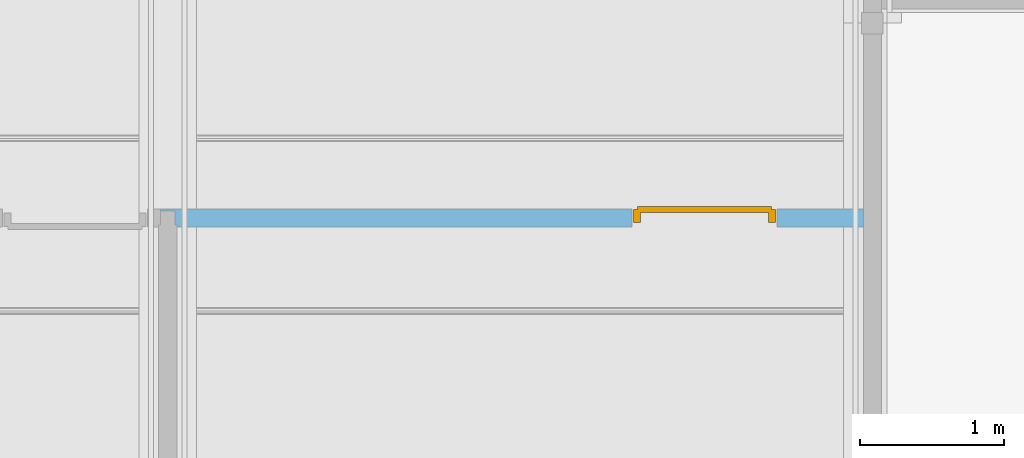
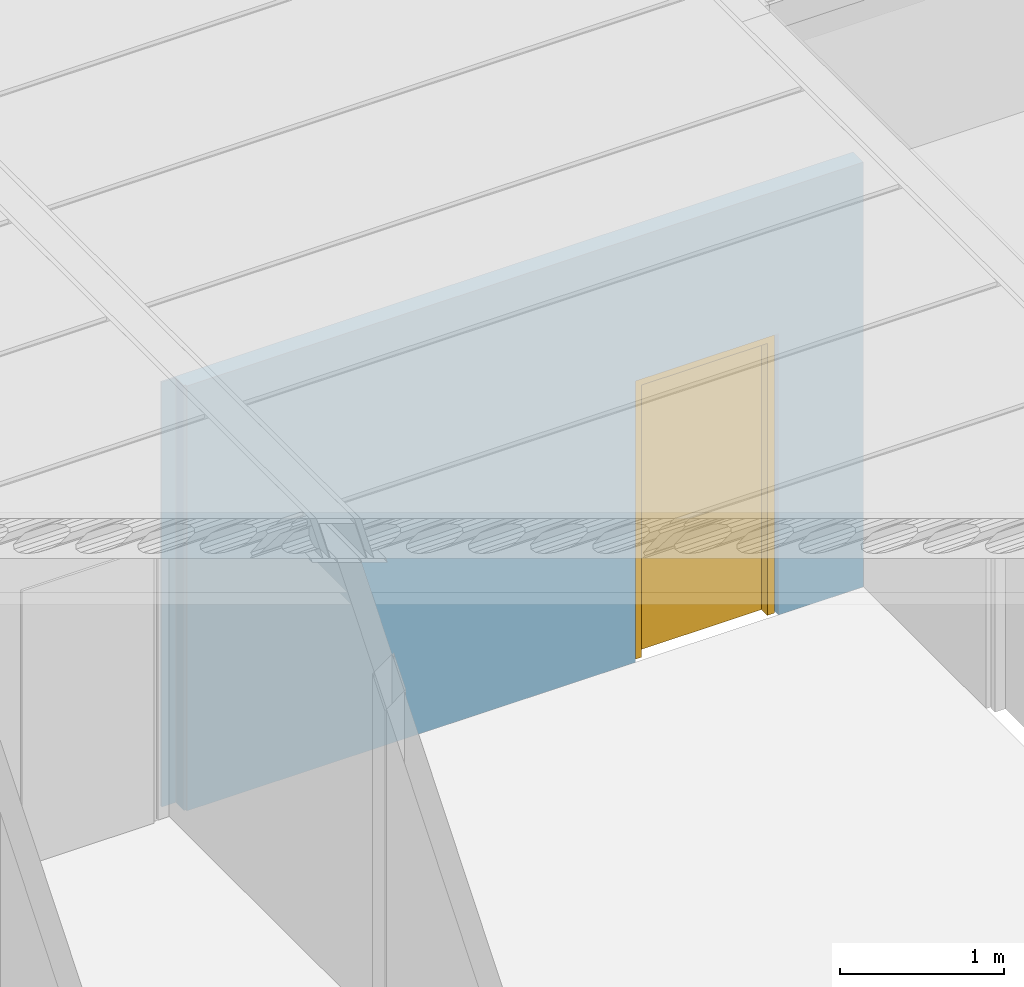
# One storey, part 29 of 45: 1 door, 1 opening, plus 1 element that does not belong to this part.
"""IFC2X3 building model written with IfcOpenShell, lengths in millimetres."""

from ifc_helpers import new_model, entity, si_unit, converted_unit, frame, frame_2d, origin, origin_with_axes, place, context, subcontext, project, spatial, polyline, rectangle, outline, extrude, faceted_brep, material, layer, layer_set, layer_usage, type_object, element, fill, save


model = new_model("IFC2X3")

# Units and contexts
model_context = context("Model", 3, precision=1e-05, world=origin())
plan_context = context("Plan", 3, precision=1e-05, world=origin())
body_context = subcontext(model_context, "Body", "Model", "MODEL_VIEW")
ifc_project = project(units=[si_unit("LENGTHUNIT", "METRE", prefix="MILLI"), converted_unit("PLANEANGLEUNIT", "DEGREE", entity("IfcPlaneAngleMeasure", 0.0174532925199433), si_unit("PLANEANGLEUNIT", "RADIAN"), dimensions=[0, 0, 0, 0, 0, 0, 0]), si_unit("AREAUNIT", "SQUARE_METRE"), si_unit("VOLUMEUNIT", "CUBIC_METRE")], contexts=[model_context, plan_context])

# Building, storey
building_placement = place(None, origin())
building = spatial("IfcBuilding", under=ifc_project, at=building_placement, Name="HEKF Administrasjonbygg", CompositionType="ELEMENT")
storey_placement = place(building_placement, frame((0.0, 0.0, 6500.0), z_axis=(0.0, 0.0, 1.0), x_axis=(1.0, 0.0, 0.0)))
storey = spatial("IfcBuildingStorey", under=building, at=storey_placement, Name="Plan 1", CompositionType="ELEMENT", Elevation=6500.0)

# Wall, opening, door
ifc_material_1 = material(Name="gips")
ifc_layer_1 = layer(ifc_material_1, 13.0)
ifc_material_2 = material(Name="riegel stål 100")
ifc_layer_2 = layer(ifc_material_2, 100.0)
ifc_material_3 = material(Name="gips")
ifc_layer_3 = layer(ifc_material_3, 13.0)
ifc_layer_set = layer_set([ifc_layer_1, ifc_layer_2, ifc_layer_3])
ifc_layer_usage = layer_usage(ifc_layer_set, "AXIS2", "POSITIVE", 0.0)
wall_placement = place(storey_placement, frame((22288.26840322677, -5417.0, 0.0), z_axis=(0.0, 0.0, 1.0), x_axis=(1.0, 0.0, 0.0)))
wall = element("IfcWallStandardCase", 1, at=wall_placement, inside=storey, material=ifc_layer_usage, context=body_context, shape_type="SweptSolid", body=[
    extrude(outline(polyline([(-113.0, 126.0), (-113.0, 113.0), (-13.0, 113.0), (-13.0, 13.0), (0.0, 13.0), (0.0, 0.0), (4774.268403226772, 0.0), (4774.268403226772, 126.0), (-113.0, 126.0)])), origin_with_axes(), (0.0, 0.0, 1.0), 3170.0),
])
opening_placement = place(wall_placement, frame((3164.268403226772, 0.0, 0.0), z_axis=(0.0, 1.0, 0.0), x_axis=(0.0, 0.0, 1.0)))
opening = element("IfcOpeningElement", 2, at=opening_placement, cuts=wall, Name="Door opening", ObjectType="Opening", context=body_context, shape_type="SweptSolid", body=[
    extrude(rectangle(XDim=2100.0, YDim=1010.0, at=frame_2d((1050.0, 505.0), x_axis=(1.0, 0.0))), origin_with_axes(), (0.0, 0.0, 1.0), 126.0),
])
ifc_material_4 = material()
door_style = type_object("IfcDoorStyle", Name="D025", ConstructionType="NOTDEFINED", OperationType="USERDEFINED", ParameterTakesPrecedence=False, Sizeable=False)
door_placement = place(opening_placement, frame((0.0, 0.0, 0.0), z_axis=(1.0, 0.0, 0.0), x_axis=(0.0, 1.0, 0.0)))
door = element("IfcDoor", 3, at=door_placement, inside=storey, type_object=door_style, material=ifc_material_4, Name="D025", OverallHeight=2100.0, OverallWidth=1010.0, context=body_context, shape_type="Brep", body=[
    faceted_brep([(1000.0, 121.9999999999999, 2080.0), (950.0, 121.9999999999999, 2080.0), (950.0, 121.9999999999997, -2.816687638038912e-15), (1000.0, 121.9999999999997, -2.816687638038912e-15), (1000.0, 29.9999999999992, 2.816687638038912e-15), (950.0, 29.99999999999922, 2.816687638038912e-15), (950.0, 29.99999999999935, 2080.0), (1000.0, 29.99999999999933, 2080.0), (1000.0, 121.9999999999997, -2.816687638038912e-15), (1000.0, 29.9999999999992, 2.816687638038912e-15), (1000.0, 29.99999999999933, 2080.0), (1000.0, 121.9999999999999, 2080.0), (950.0, 121.9999999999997, -2.816687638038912e-15), (950.0, 29.99999999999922, 2.816687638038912e-15), (1000.0, 29.9999999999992, 2.816687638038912e-15), (1000.0, 121.9999999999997, -2.816687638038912e-15), (950.0, 121.9999999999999, 2080.0), (950.0, 29.99999999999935, 2080.0), (950.0, 29.99999999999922, 2.816687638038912e-15), (950.0, 121.9999999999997, -2.816687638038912e-15), (1000.0, 121.9999999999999, 2080.0), (1000.0, 29.99999999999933, 2080.0), (950.0, 29.99999999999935, 2080.0), (950.0, 121.9999999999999, 2080.0)], [[[0, 1, 2, 3]], [[4, 5, 6, 7]], [[8, 9, 10, 11]], [[12, 13, 14, 15]], [[16, 17, 18, 19]], [[20, 21, 22, 23]]], orient=[[False], [False], [False], [False], [False], [False]]),
    faceted_brep([(60.0, 122.0000000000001, 2080.0), (10.0, 122.0000000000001, 2080.0), (10.0, 122.0, -2.816687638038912e-15), (60.0, 122.0, -2.816687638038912e-15), (60.0, 29.99999999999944, 2.816687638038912e-15), (10.0, 29.99999999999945, 2.816687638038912e-15), (10.0, 29.99999999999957, 2080.0), (60.0, 29.99999999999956, 2080.0), (60.0, 122.0, -2.816687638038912e-15), (60.0, 29.99999999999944, 2.816687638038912e-15), (60.0, 29.99999999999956, 2080.0), (60.0, 122.0000000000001, 2080.0), (10.0, 122.0, -2.816687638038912e-15), (10.0, 29.99999999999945, 2.816687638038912e-15), (60.0, 29.99999999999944, 2.816687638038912e-15), (60.0, 122.0, -2.816687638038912e-15), (10.0, 122.0000000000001, 2080.0), (10.0, 29.99999999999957, 2080.0), (10.0, 29.99999999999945, 2.816687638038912e-15), (10.0, 122.0, -2.816687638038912e-15), (60.0, 122.0000000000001, 2080.0), (60.0, 29.99999999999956, 2080.0), (10.0, 29.99999999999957, 2080.0), (10.0, 122.0000000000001, 2080.0)], [[[0, 1, 2, 3]], [[4, 5, 6, 7]], [[8, 9, 10, 11]], [[12, 13, 14, 15]], [[16, 17, 18, 19]], [[20, 21, 22, 23]]], orient=[[False], [False], [False], [False], [False], [False]]),
    faceted_brep([(950.0, 121.9999999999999, 2080.0), (60.00000000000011, 122.0000000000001, 2080.0), (60.00000000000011, 122.0000000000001, 2030.0), (950.0, 121.9999999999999, 2030.0), (950.0, 29.99999999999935, 2030.0), (60.00000000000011, 29.99999999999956, 2030.0), (60.00000000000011, 29.99999999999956, 2080.000000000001), (950.0, 29.99999999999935, 2080.000000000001), (950.0, 121.9999999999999, 2030.0), (950.0, 29.99999999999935, 2030.0), (950.0, 29.99999999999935, 2080.000000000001), (950.0, 121.9999999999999, 2080.0), (60.00000000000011, 122.0000000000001, 2030.0), (60.00000000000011, 29.99999999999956, 2030.0), (950.0, 29.99999999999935, 2030.0), (950.0, 121.9999999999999, 2030.0), (60.00000000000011, 122.0000000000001, 2080.0), (60.00000000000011, 29.99999999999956, 2080.000000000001), (60.00000000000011, 29.99999999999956, 2030.0), (60.00000000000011, 122.0000000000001, 2030.0), (950.0, 121.9999999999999, 2080.0), (950.0, 29.99999999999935, 2080.000000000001), (60.00000000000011, 29.99999999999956, 2080.000000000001), (60.00000000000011, 122.0000000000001, 2080.0)], [[[0, 1, 2, 3]], [[4, 5, 6, 7]], [[8, 9, 10, 11]], [[12, 13, 14, 15]], [[16, 17, 18, 19]], [[20, 21, 22, 23]]], orient=[[False], [False], [False], [False], [False], [False]]),
    faceted_brep([(970.0, 142.0, 2050.000000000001), (40.00000000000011, 142.0000000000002, 2050.000000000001), (40.00000000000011, 142.0000000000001, -4.041334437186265e-15), (970.0, 141.9999999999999, -4.041334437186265e-15), (970.0, 101.9999999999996, -1.592040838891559e-15), (40.00000000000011, 101.9999999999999, -1.592040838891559e-15), (40.00000000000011, 102.0, 2050.000000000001), (970.0, 101.9999999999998, 2050.000000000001), (970.0, 141.9999999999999, -4.041334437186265e-15), (970.0, 101.9999999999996, -1.592040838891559e-15), (970.0, 101.9999999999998, 2050.000000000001), (970.0, 142.0, 2050.000000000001), (40.00000000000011, 142.0000000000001, -4.041334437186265e-15), (40.00000000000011, 101.9999999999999, -1.592040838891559e-15), (970.0, 101.9999999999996, -1.592040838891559e-15), (970.0, 141.9999999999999, -4.041334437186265e-15), (40.00000000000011, 142.0000000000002, 2050.000000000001), (40.00000000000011, 102.0, 2050.000000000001), (40.00000000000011, 101.9999999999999, -1.592040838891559e-15), (40.00000000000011, 142.0000000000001, -4.041334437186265e-15), (970.0, 142.0, 2050.000000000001), (970.0, 101.9999999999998, 2050.000000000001), (40.00000000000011, 102.0, 2050.000000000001), (40.00000000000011, 142.0000000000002, 2050.000000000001)], [[[0, 1, 2, 3]], [[4, 5, 6, 7]], [[8, 9, 10, 11]], [[12, 13, 14, 15]], [[16, 17, 18, 19]], [[20, 21, 22, 23]]], orient=[[False], [False], [False], [False], [False], [False]]),
])
fill(opening, door)

save(model, "model.ifc")
